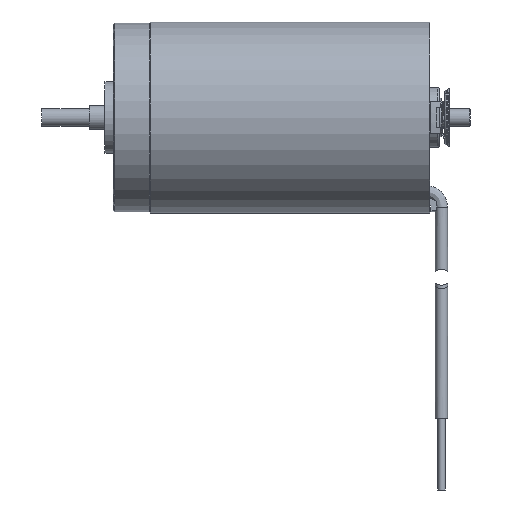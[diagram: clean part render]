
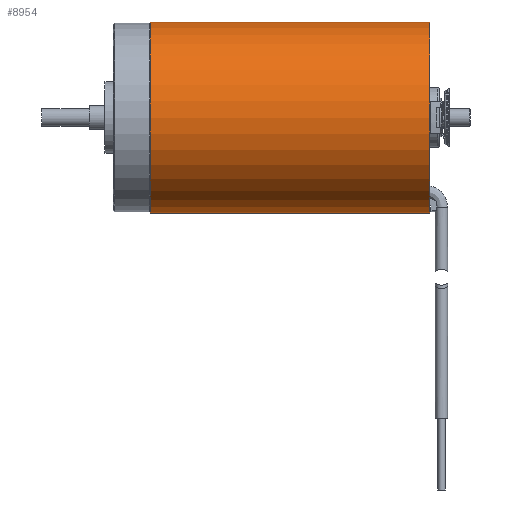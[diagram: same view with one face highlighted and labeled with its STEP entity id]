
A CAD part, front view. The second image highlights one B-rep face of the part: STEP entity #8954.
In plain terms, the highlighted cylindrical face has radius 8 mm (diameter 16 mm), a partial arc.
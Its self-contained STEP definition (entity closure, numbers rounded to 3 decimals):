
#1202 = EDGE_CURVE ( 'NONE', #3325, #12394, #21499, .T. ) ;
#1515 = EDGE_CURVE ( 'NONE', #16848, #8771, #15778, .T. ) ;
#2065 = ORIENTED_EDGE ( 'NONE', *, *, #1515, .F. ) ;
#3325 = VERTEX_POINT ( 'NONE', #33208 ) ;
#3680 = EDGE_CURVE ( 'NONE', #12394, #8771, #29228, .T. ) ;
#5019 = DIRECTION ( 'NONE',  ( -1., 0., 0. ) ) ;
#5485 = DIRECTION ( 'NONE',  ( -1., 0., 0. ) ) ;
#5639 = DIRECTION ( 'NONE',  ( 0., 0., 1. ) ) ;
#8771 = VERTEX_POINT ( 'NONE', #26026 ) ;
#8954 = ADVANCED_FACE ( 'NONE', ( #9230 ), #24120, .T. ) ;
#9230 = FACE_OUTER_BOUND ( 'NONE', #31537, .T. ) ;
#10561 = CARTESIAN_POINT ( 'NONE',  ( 26.5, 0., 0. ) ) ;
#11056 = ORIENTED_EDGE ( 'NONE', *, *, #1202, .T. ) ;
#11906 = AXIS2_PLACEMENT_3D ( 'NONE', #10561, #36193, #14262 ) ;
#12394 = VERTEX_POINT ( 'NONE', #32988 ) ;
#13201 = AXIS2_PLACEMENT_3D ( 'NONE', #27586, #5485, #5639 ) ;
#14262 = DIRECTION ( 'NONE',  ( 0., 0., 1. ) ) ;
#14445 = CARTESIAN_POINT ( 'NONE',  ( 26.5, 0., -8. ) ) ;
#14618 = VECTOR ( 'NONE', #37705, 1000. ) ;
#15778 = LINE ( 'NONE', #15791, #14618 ) ;
#15791 = CARTESIAN_POINT ( 'NONE',  ( 14.8, 0., -8. ) ) ;
#16848 = VERTEX_POINT ( 'NONE', #14445 ) ;
#21236 = DIRECTION ( 'NONE',  ( 1., 0., 0. ) ) ;
#21499 = LINE ( 'NONE', #26980, #30077 ) ;
#24120 = CYLINDRICAL_SURFACE ( 'NONE', #13201, 8. ) ;
#26026 = CARTESIAN_POINT ( 'NONE',  ( 3.1, 0., -8. ) ) ;
#26980 = CARTESIAN_POINT ( 'NONE',  ( 14.8, 0., 8. ) ) ;
#27586 = CARTESIAN_POINT ( 'NONE',  ( 14.8, 0., 0. ) ) ;
#27892 = AXIS2_PLACEMENT_3D ( 'NONE', #43154, #21236, #46839 ) ;
#29228 = CIRCLE ( 'NONE', #27892, 8. ) ;
#30077 = VECTOR ( 'NONE', #5019, 1000. ) ;
#31537 = EDGE_LOOP ( 'NONE', ( #2065, #44608, #11056, #43291 ) ) ;
#32988 = CARTESIAN_POINT ( 'NONE',  ( 3.1, 0., 8. ) ) ;
#33208 = CARTESIAN_POINT ( 'NONE',  ( 26.5, 0., 8. ) ) ;
#36193 = DIRECTION ( 'NONE',  ( -1., 0., 0. ) ) ;
#37705 = DIRECTION ( 'NONE',  ( -1., 0., 0. ) ) ;
#39182 = CIRCLE ( 'NONE', #11906, 8. ) ;
#42848 = EDGE_CURVE ( 'NONE', #16848, #3325, #39182, .T. ) ;
#43154 = CARTESIAN_POINT ( 'NONE',  ( 3.1, 0., 0. ) ) ;
#43291 = ORIENTED_EDGE ( 'NONE', *, *, #3680, .T. ) ;
#44608 = ORIENTED_EDGE ( 'NONE', *, *, #42848, .T. ) ;
#46839 = DIRECTION ( 'NONE',  ( 0., 0., 1. ) ) ;
